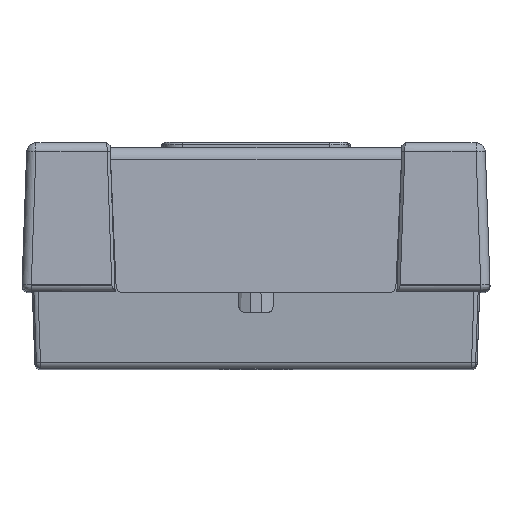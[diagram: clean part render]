
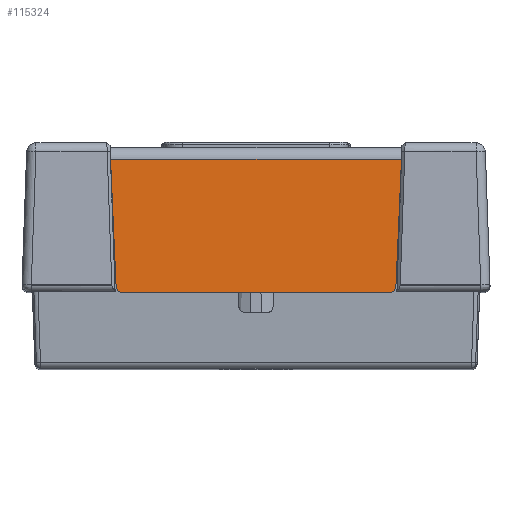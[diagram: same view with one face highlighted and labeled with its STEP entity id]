
A CAD part, top view. The second image highlights one B-rep face of the part: STEP entity #115324.
In plain terms, the highlighted planar face has unit normal (0, 0.035, 0.999) as drawn and (0, -0.999, 0.035) by its records, which use the part's own axes.
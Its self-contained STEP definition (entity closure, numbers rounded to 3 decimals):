
#4047 = VECTOR ( 'NONE', #123423, 1000. ) ;
#6275 = CARTESIAN_POINT ( 'NONE',  ( -21.602, -63.715, -21.452 ) ) ;
#7691 = ORIENTED_EDGE ( 'NONE', *, *, #61224, .T. ) ;
#13584 = EDGE_CURVE ( 'NONE', #119291, #66362, #26196, .T. ) ;
#14009 = EDGE_CURVE ( 'NONE', #116944, #75684, #33990, .T. ) ;
#17077 = ORIENTED_EDGE ( 'NONE', *, *, #14009, .T. ) ;
#18320 = CARTESIAN_POINT ( 'NONE',  ( -23.5, -62.999, -0.93 ) ) ;
#26196 = LINE ( 'NONE', #69514, #93274 ) ;
#27297 = DIRECTION ( 'NONE',  ( 0., -0.999, 0.035 ) ) ;
#31119 = PLANE ( 'NONE',  #90492 ) ;
#32198 = EDGE_CURVE ( 'NONE', #66362, #116944, #104826, .T. ) ;
#32303 = VECTOR ( 'NONE', #129607, 1000. ) ;
#33990 = LINE ( 'NONE', #55030, #125826 ) ;
#35108 = ORIENTED_EDGE ( 'NONE', *, *, #39855, .T. ) ;
#35221 = ORIENTED_EDGE ( 'NONE', *, *, #88904, .F. ) ;
#38357 = CARTESIAN_POINT ( 'NONE',  ( 21.602, -63.715, -21.452 ) ) ;
#38756 = CARTESIAN_POINT ( 'NONE',  ( 23.5, -62.999, -0.93 ) ) ;
#38785 = DIRECTION ( 'NONE',  ( 0., 0.035, 0.999 ) ) ;
#39855 = EDGE_CURVE ( 'NONE', #71639, #54692, #130276, .T. ) ;
#50082 = ORIENTED_EDGE ( 'NONE', *, *, #13584, .T. ) ;
#50790 = DIRECTION ( 'NONE',  ( 0., 0.035, 0.999 ) ) ;
#53904 = CARTESIAN_POINT ( 'NONE',  ( 23.5, -62.999, -0.93 ) ) ;
#54692 = VERTEX_POINT ( 'NONE', #90009 ) ;
#55030 = CARTESIAN_POINT ( 'NONE',  ( 23.59, -62.927, 1.133 ) ) ;
#60958 = CARTESIAN_POINT ( 'NONE',  ( 0., -62.891, 2.162 ) ) ;
#61224 = EDGE_CURVE ( 'NONE', #54692, #119291, #122619, .T. ) ;
#61305 = CARTESIAN_POINT ( 'NONE',  ( 22.601, -63.717, -21.496 ) ) ;
#66362 = VERTEX_POINT ( 'NONE', #82535 ) ;
#67329 = CARTESIAN_POINT ( 'NONE',  ( -21.602, -63.75, -22.451 ) ) ;
#67528 = DIRECTION ( 'NONE',  ( 0., -0.999, 0.035 ) ) ;
#68193 = DIRECTION ( 'NONE',  ( 0., 0.035, 0.999 ) ) ;
#69514 = CARTESIAN_POINT ( 'NONE',  ( 0., -63.75, -22.451 ) ) ;
#71639 = VERTEX_POINT ( 'NONE', #18320 ) ;
#72850 = AXIS2_PLACEMENT_3D ( 'NONE', #6275, #27297, #38785 ) ;
#73165 = DIRECTION ( 'NONE',  ( 0., 0.999, -0.035 ) ) ;
#73664 = ORIENTED_EDGE ( 'NONE', *, *, #32198, .T. ) ;
#75684 = VERTEX_POINT ( 'NONE', #53904 ) ;
#82125 = LINE ( 'NONE', #38756, #4047 ) ;
#82535 = CARTESIAN_POINT ( 'NONE',  ( 21.602, -63.75, -22.451 ) ) ;
#84932 = EDGE_LOOP ( 'NONE', ( #35108, #7691, #50082, #73664, #17077, #35221 ) ) ;
#88904 = EDGE_CURVE ( 'NONE', #71639, #75684, #82125, .T. ) ;
#90009 = CARTESIAN_POINT ( 'NONE',  ( -22.601, -63.717, -21.496 ) ) ;
#90492 = AXIS2_PLACEMENT_3D ( 'NONE', #60958, #73165, #50790 ) ;
#93274 = VECTOR ( 'NONE', #120306, 1000. ) ;
#99104 = CARTESIAN_POINT ( 'NONE',  ( -23.59, -62.927, 1.133 ) ) ;
#104826 = CIRCLE ( 'NONE', #122090, 1. ) ;
#115324 = ADVANCED_FACE ( 'NONE', ( #123287 ), #31119, .F. ) ;
#116944 = VERTEX_POINT ( 'NONE', #61305 ) ;
#118006 = DIRECTION ( 'NONE',  ( 0.044, 0.035, 0.998 ) ) ;
#119291 = VERTEX_POINT ( 'NONE', #67329 ) ;
#120306 = DIRECTION ( 'NONE',  ( 1., 0., 0. ) ) ;
#122090 = AXIS2_PLACEMENT_3D ( 'NONE', #38357, #67528, #68193 ) ;
#122619 = CIRCLE ( 'NONE', #72850, 1. ) ;
#123287 = FACE_OUTER_BOUND ( 'NONE', #84932, .T. ) ;
#123423 = DIRECTION ( 'NONE',  ( 1., 0., 0. ) ) ;
#125826 = VECTOR ( 'NONE', #118006, 1000. ) ;
#129607 = DIRECTION ( 'NONE',  ( 0.044, -0.035, -0.998 ) ) ;
#130276 = LINE ( 'NONE', #99104, #32303 ) ;
